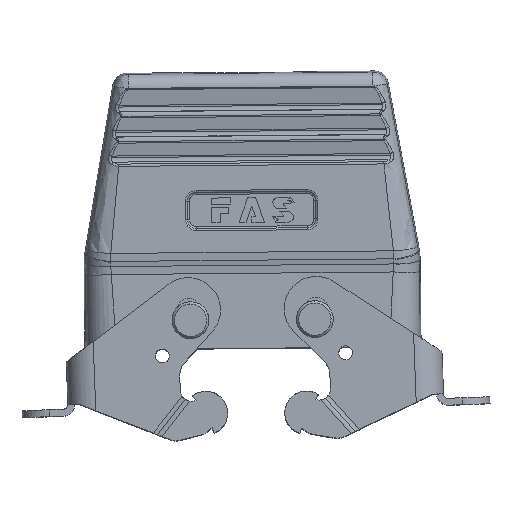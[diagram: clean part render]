
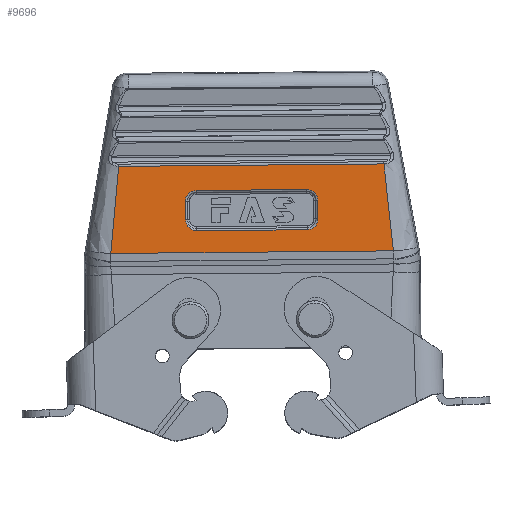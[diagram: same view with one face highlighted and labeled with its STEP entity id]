
A CAD part, top view. The second image highlights one B-rep face of the part: STEP entity #9696.
In plain terms, the highlighted planar face has unit normal (0, 0, 1) as drawn and (0, -1, 0) by its records, which use the part's own axes.
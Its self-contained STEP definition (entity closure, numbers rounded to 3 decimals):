
#495 = CARTESIAN_POINT ( 'NONE',  ( -14.366, -22., 33.386 ) ) ;
#541 = VERTEX_POINT ( 'NONE', #27976 ) ;
#597 = CARTESIAN_POINT ( 'NONE',  ( 29.208, -22., 36.619 ) ) ;
#1418 = VERTEX_POINT ( 'NONE', #10347 ) ;
#1857 = CARTESIAN_POINT ( 'NONE',  ( 14.366, -22., 28. ) ) ;
#1902 = CARTESIAN_POINT ( 'NONE',  ( -29.207, -22., 36.619 ) ) ;
#2139 = DIRECTION ( 'NONE',  ( 0., 0., -1. ) ) ;
#2267 = VERTEX_POINT ( 'NONE', #8075 ) ;
#2636 = CARTESIAN_POINT ( 'NONE',  ( -14.366, -22., 28. ) ) ;
#2748 = ORIENTED_EDGE ( 'NONE', *, *, #11692, .F. ) ;
#3598 = CARTESIAN_POINT ( 'NONE',  ( -23.5, -22., 34.366 ) ) ;
#3635 = CARTESIAN_POINT ( 'NONE',  ( 12., -22., 25.634 ) ) ;
#3942 = CARTESIAN_POINT ( 'NONE',  ( 13.386, -22., 34.366 ) ) ;
#4138 = CARTESIAN_POINT ( 'NONE',  ( 14.366, -22., 33.386 ) ) ;
#4212 = VECTOR ( 'NONE', #2139, 1000. ) ;
#4284 = B_SPLINE_CURVE_WITH_KNOTS ( 'NONE', 3,
 ( #22633, #597, #16204, #27420, #22726, #18335 ),
 .UNSPECIFIED., .F., .F.,
 ( 4, 2, 4 ),
 ( 0., 0.5, 1. ),
 .UNSPECIFIED. ) ;
#4884 = DIRECTION ( 'NONE',  ( -1., 0., 0. ) ) ;
#5078 = CARTESIAN_POINT ( 'NONE',  ( -14.366, -22., 32. ) ) ;
#5733 = VERTEX_POINT ( 'NONE', #20097 ) ;
#5967 = CARTESIAN_POINT ( 'NONE',  ( 14.366, -22., 28. ) ) ;
#6452 = CARTESIAN_POINT ( 'NONE',  ( -28.792, -22., 39.758 ) ) ;
#6569 = ORIENTED_EDGE ( 'NONE', *, *, #27376, .F. ) ;
#6749 = VERTEX_POINT ( 'NONE', #6452 ) ;
#7066 = ORIENTED_EDGE ( 'NONE', *, *, #24289, .F. ) ;
#7072 = EDGE_LOOP ( 'NONE', ( #8756, #12926, #27945, #10656 ) ) ;
#7816 = EDGE_CURVE ( 'NONE', #7894, #22152, #17470, .T. ) ;
#7894 = VERTEX_POINT ( 'NONE', #3635 ) ;
#8075 = CARTESIAN_POINT ( 'NONE',  ( 30.672, -22., 20.875 ) ) ;
#8402 = CARTESIAN_POINT ( 'NONE',  ( -29.596, -22., 33.477 ) ) ;
#8437 = LINE ( 'NONE', #22043, #17887 ) ;
#8466 = CARTESIAN_POINT ( 'NONE',  ( -23.5, -22., 0. ) ) ;
#8468 = CARTESIAN_POINT ( 'NONE',  ( 13.386, -22., 25.634 ) ) ;
#8756 = ORIENTED_EDGE ( 'NONE', *, *, #12994, .F. ) ;
#9252 = VERTEX_POINT ( 'NONE', #20498 ) ;
#9548 = LINE ( 'NONE', #16973, #25269 ) ;
#9696 = ADVANCED_FACE ( 'NONE', ( #11787, #21910 ), #24363, .F. ) ;
#9929 =( BOUNDED_CURVE ( )  B_SPLINE_CURVE ( 3, ( #16775, #25851, #21830, #21448 ),
 .UNSPECIFIED., .F., .F. ) 
 B_SPLINE_CURVE_WITH_KNOTS ( ( 4, 4 ),
 ( 0., 1. ),
 .UNSPECIFIED. ) 
 CURVE ( )  GEOMETRIC_REPRESENTATION_ITEM ( )  RATIONAL_B_SPLINE_CURVE ( ( 1., 0.805, 0.805, 1. ) ) 
 REPRESENTATION_ITEM ( '' )  );
#10347 = CARTESIAN_POINT ( 'NONE',  ( -14.366, -22., 32. ) ) ;
#10378 = VECTOR ( 'NONE', #10586, 1000. ) ;
#10586 = DIRECTION ( 'NONE',  ( -1., 0., 0. ) ) ;
#10656 = ORIENTED_EDGE ( 'NONE', *, *, #24308, .F. ) ;
#10811 = ORIENTED_EDGE ( 'NONE', *, *, #7816, .F. ) ;
#10838 = CARTESIAN_POINT ( 'NONE',  ( -12., -22., 34.366 ) ) ;
#10858 = CARTESIAN_POINT ( 'NONE',  ( -30.248, -22., 27.183 ) ) ;
#10880 = CARTESIAN_POINT ( 'NONE',  ( -23.5, -22., 25.634 ) ) ;
#11692 = EDGE_CURVE ( 'NONE', #11915, #5733, #9929, .T. ) ;
#11787 = FACE_BOUND ( 'NONE', #15280, .T. ) ;
#11915 = VERTEX_POINT ( 'NONE', #2636 ) ;
#12926 = ORIENTED_EDGE ( 'NONE', *, *, #14708, .F. ) ;
#12994 = EDGE_CURVE ( 'NONE', #2267, #16096, #16575, .T. ) ;
#13295 = CARTESIAN_POINT ( 'NONE',  ( -30.509, -22., 24.029 ) ) ;
#13411 = DIRECTION ( 'NONE',  ( 1., 0., 0. ) ) ;
#13599 = EDGE_CURVE ( 'NONE', #6749, #16936, #9548, .T. ) ;
#14708 = EDGE_CURVE ( 'NONE', #16936, #2267, #4284, .T. ) ;
#15280 = EDGE_LOOP ( 'NONE', ( #26713, #2748, #23759, #22145, #20379, #7066, #6569, #10811 ) ) ;
#16096 = VERTEX_POINT ( 'NONE', #18923 ) ;
#16204 = CARTESIAN_POINT ( 'NONE',  ( 29.597, -22., 33.477 ) ) ;
#16325 = LINE ( 'NONE', #3598, #10378 ) ;
#16391 = CARTESIAN_POINT ( 'NONE',  ( -264.098, -22., 20.875 ) ) ;
#16575 = LINE ( 'NONE', #16391, #18999 ) ;
#16775 = CARTESIAN_POINT ( 'NONE',  ( -14.366, -22., 28. ) ) ;
#16936 = VERTEX_POINT ( 'NONE', #23813 ) ;
#16973 = CARTESIAN_POINT ( 'NONE',  ( -23.5, -22., 39.758 ) ) ;
#17319 = CARTESIAN_POINT ( 'NONE',  ( -14.366, -22., 0. ) ) ;
#17381 = CARTESIAN_POINT ( 'NONE',  ( 12., -22., 34.366 ) ) ;
#17445 = EDGE_CURVE ( 'NONE', #1418, #11915, #27604, .T. ) ;
#17470 =( BOUNDED_CURVE ( )  B_SPLINE_CURVE ( 3, ( #23973, #8468, #19602, #5967 ),
 .UNSPECIFIED., .F., .F. ) 
 B_SPLINE_CURVE_WITH_KNOTS ( ( 4, 4 ),
 ( 0., 1. ),
 .UNSPECIFIED. ) 
 CURVE ( )  GEOMETRIC_REPRESENTATION_ITEM ( )  RATIONAL_B_SPLINE_CURVE ( ( 1., 0.805, 0.805, 1. ) ) 
 REPRESENTATION_ITEM ( '' )  );
#17887 = VECTOR ( 'NONE', #28612, 1000. ) ;
#18335 = CARTESIAN_POINT ( 'NONE',  ( 30.672, -22., 20.875 ) ) ;
#18880 = AXIS2_PLACEMENT_3D ( 'NONE', #8466, #23971, #19601 ) ;
#18923 = CARTESIAN_POINT ( 'NONE',  ( -30.672, -22., 20.875 ) ) ;
#18999 = VECTOR ( 'NONE', #4884, 1000. ) ;
#19601 = DIRECTION ( 'NONE',  ( 0., 0., 1. ) ) ;
#19602 = CARTESIAN_POINT ( 'NONE',  ( 14.366, -22., 26.614 ) ) ;
#19634 = VERTEX_POINT ( 'NONE', #26371 ) ;
#20097 = CARTESIAN_POINT ( 'NONE',  ( -12., -22., 25.634 ) ) ;
#20379 = ORIENTED_EDGE ( 'NONE', *, *, #22593, .F. ) ;
#20498 = CARTESIAN_POINT ( 'NONE',  ( -12., -22., 34.366 ) ) ;
#20552 = VECTOR ( 'NONE', #13411, 1000. ) ;
#21448 = CARTESIAN_POINT ( 'NONE',  ( -12., -22., 25.634 ) ) ;
#21552 = EDGE_CURVE ( 'NONE', #5733, #7894, #23319, .T. ) ;
#21830 = CARTESIAN_POINT ( 'NONE',  ( -13.386, -22., 25.634 ) ) ;
#21910 = FACE_OUTER_BOUND ( 'NONE', #7072, .T. ) ;
#22043 = CARTESIAN_POINT ( 'NONE',  ( 14.366, -22., 0. ) ) ;
#22145 = ORIENTED_EDGE ( 'NONE', *, *, #27428, .F. ) ;
#22152 = VERTEX_POINT ( 'NONE', #1857 ) ;
#22593 = EDGE_CURVE ( 'NONE', #19634, #9252, #16325, .T. ) ;
#22633 = CARTESIAN_POINT ( 'NONE',  ( 28.792, -22., 39.758 ) ) ;
#22726 = CARTESIAN_POINT ( 'NONE',  ( 30.51, -22., 24.029 ) ) ;
#23319 = LINE ( 'NONE', #10880, #20552 ) ;
#23759 = ORIENTED_EDGE ( 'NONE', *, *, #17445, .F. ) ;
#23813 = CARTESIAN_POINT ( 'NONE',  ( 28.792, -22., 39.758 ) ) ;
#23971 = DIRECTION ( 'NONE',  ( 0., 1., 0. ) ) ;
#23973 = CARTESIAN_POINT ( 'NONE',  ( 12., -22., 25.634 ) ) ;
#24008 = CARTESIAN_POINT ( 'NONE',  ( -28.792, -22., 39.758 ) ) ;
#24105 = CARTESIAN_POINT ( 'NONE',  ( 14.366, -22., 32. ) ) ;
#24289 = EDGE_CURVE ( 'NONE', #541, #19634, #28361, .T. ) ;
#24308 = EDGE_CURVE ( 'NONE', #16096, #6749, #24800, .T. ) ;
#24363 = PLANE ( 'NONE',  #18880 ) ;
#24800 = B_SPLINE_CURVE_WITH_KNOTS ( 'NONE', 3,
 ( #26657, #13295, #10858, #8402, #1902, #24008 ),
 .UNSPECIFIED., .F., .F.,
 ( 4, 2, 4 ),
 ( 0., 0.5, 1. ),
 .UNSPECIFIED. ) ;
#25269 = VECTOR ( 'NONE', #25866, 1000. ) ;
#25851 = CARTESIAN_POINT ( 'NONE',  ( -14.366, -22., 26.614 ) ) ;
#25866 = DIRECTION ( 'NONE',  ( 1., 0., 0. ) ) ;
#26371 = CARTESIAN_POINT ( 'NONE',  ( 12., -22., 34.366 ) ) ;
#26556 =( BOUNDED_CURVE ( )  B_SPLINE_CURVE ( 3, ( #10838, #27215, #495, #5078 ),
 .UNSPECIFIED., .F., .F. ) 
 B_SPLINE_CURVE_WITH_KNOTS ( ( 4, 4 ),
 ( 0., 1. ),
 .UNSPECIFIED. ) 
 CURVE ( )  GEOMETRIC_REPRESENTATION_ITEM ( )  RATIONAL_B_SPLINE_CURVE ( ( 1., 0.805, 0.805, 1. ) ) 
 REPRESENTATION_ITEM ( '' )  );
#26657 = CARTESIAN_POINT ( 'NONE',  ( -30.672, -22., 20.875 ) ) ;
#26713 = ORIENTED_EDGE ( 'NONE', *, *, #21552, .F. ) ;
#27215 = CARTESIAN_POINT ( 'NONE',  ( -13.386, -22., 34.366 ) ) ;
#27376 = EDGE_CURVE ( 'NONE', #22152, #541, #8437, .T. ) ;
#27420 = CARTESIAN_POINT ( 'NONE',  ( 30.248, -22., 27.182 ) ) ;
#27428 = EDGE_CURVE ( 'NONE', #9252, #1418, #26556, .T. ) ;
#27604 = LINE ( 'NONE', #17319, #4212 ) ;
#27945 = ORIENTED_EDGE ( 'NONE', *, *, #13599, .F. ) ;
#27976 = CARTESIAN_POINT ( 'NONE',  ( 14.366, -22., 32. ) ) ;
#28361 =( BOUNDED_CURVE ( )  B_SPLINE_CURVE ( 3, ( #24105, #4138, #3942, #17381 ),
 .UNSPECIFIED., .F., .F. ) 
 B_SPLINE_CURVE_WITH_KNOTS ( ( 4, 4 ),
 ( 0., 1. ),
 .UNSPECIFIED. ) 
 CURVE ( )  GEOMETRIC_REPRESENTATION_ITEM ( )  RATIONAL_B_SPLINE_CURVE ( ( 1., 0.805, 0.805, 1. ) ) 
 REPRESENTATION_ITEM ( '' )  );
#28612 = DIRECTION ( 'NONE',  ( 0., 0., 1. ) ) ;
